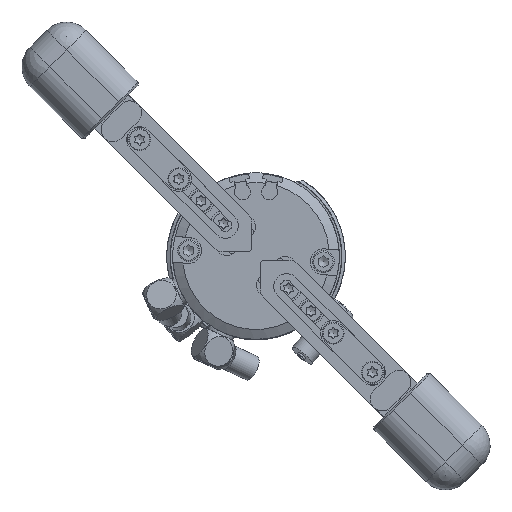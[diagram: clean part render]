
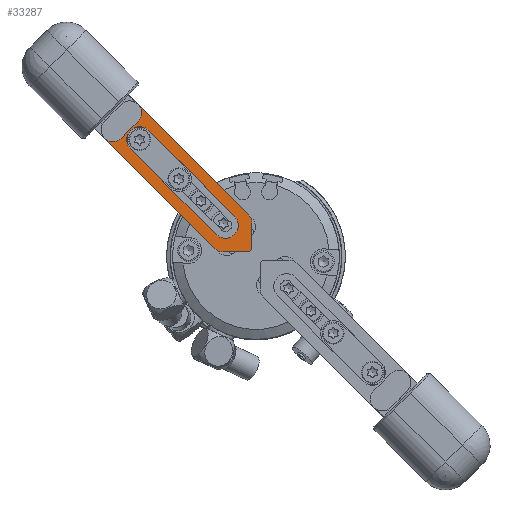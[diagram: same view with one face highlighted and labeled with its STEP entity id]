
A CAD part, top view. The second image highlights one B-rep face of the part: STEP entity #33287.
In plain terms, the highlighted planar face has unit normal (0, 0, 1).
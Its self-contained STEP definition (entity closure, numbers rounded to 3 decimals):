
#3358=LINE('',#59719,#6246);
#3365=LINE('',#59739,#6253);
#3368=LINE('',#59747,#6256);
#3369=LINE('',#59751,#6257);
#3370=LINE('',#59755,#6258);
#3371=LINE('',#59759,#6259);
#3372=LINE('',#59763,#6260);
#3373=LINE('',#59767,#6261);
#6246=VECTOR('',#41205,6.453);
#6253=VECTOR('',#41226,0.834);
#6256=VECTOR('',#41233,39.257);
#6257=VECTOR('',#41236,6.);
#6258=VECTOR('',#41239,39.257);
#6259=VECTOR('',#41242,6.453);
#6260=VECTOR('',#41245,30.593);
#6261=VECTOR('',#41248,30.593);
#7328=PLANE('',#35047);
#9513=FACE_BOUND('',#13734,.T.);
#10002=CIRCLE('',#35045,0.2);
#10003=CIRCLE('',#35048,3.);
#10004=CIRCLE('',#35049,3.);
#10005=CIRCLE('',#35050,3.);
#10006=CIRCLE('',#35051,3.);
#10007=CIRCLE('',#35052,0.2);
#10008=CIRCLE('',#35053,3.25);
#10009=CIRCLE('',#35054,3.25);
#11691=FACE_OUTER_BOUND('',#13733,.T.);
#13733=EDGE_LOOP('',(#30827,#30828,#30829,#30830,#30831,#30832,#30833,#30834,
#30835,#30836,#30837,#30838));
#13734=EDGE_LOOP('',(#30839,#30840,#30841,#30842));
#17761=VERTEX_POINT('',#59716);
#17762=VERTEX_POINT('',#59718);
#17767=VERTEX_POINT('',#59734);
#17768=VERTEX_POINT('',#59738);
#17770=VERTEX_POINT('',#59744);
#17771=VERTEX_POINT('',#59746);
#17772=VERTEX_POINT('',#59748);
#17773=VERTEX_POINT('',#59750);
#17774=VERTEX_POINT('',#59752);
#17775=VERTEX_POINT('',#59754);
#17776=VERTEX_POINT('',#59756);
#17777=VERTEX_POINT('',#59758);
#17778=VERTEX_POINT('',#59761);
#17779=VERTEX_POINT('',#59762);
#17780=VERTEX_POINT('',#59764);
#17781=VERTEX_POINT('',#59766);
#22146=EDGE_CURVE('',#17762,#17761,#3358,.T.);
#22154=EDGE_CURVE('',#17762,#17767,#10002,.T.);
#22156=EDGE_CURVE('',#17768,#17767,#3365,.T.);
#22159=EDGE_CURVE('',#17770,#17761,#10003,.T.);
#22160=EDGE_CURVE('',#17770,#17771,#3368,.T.);
#22161=EDGE_CURVE('',#17771,#17772,#10004,.T.);
#22162=EDGE_CURVE('',#17772,#17773,#3369,.T.);
#22163=EDGE_CURVE('',#17773,#17774,#10005,.T.);
#22164=EDGE_CURVE('',#17774,#17775,#3370,.T.);
#22165=EDGE_CURVE('',#17776,#17775,#10006,.T.);
#22166=EDGE_CURVE('',#17776,#17777,#3371,.T.);
#22167=EDGE_CURVE('',#17768,#17777,#10007,.T.);
#22168=EDGE_CURVE('',#17778,#17779,#3372,.T.);
#22169=EDGE_CURVE('',#17779,#17780,#10008,.T.);
#22170=EDGE_CURVE('',#17780,#17781,#3373,.T.);
#22171=EDGE_CURVE('',#17781,#17778,#10009,.T.);
#30827=ORIENTED_EDGE('',*,*,#22154,.F.);
#30828=ORIENTED_EDGE('',*,*,#22146,.T.);
#30829=ORIENTED_EDGE('',*,*,#22159,.F.);
#30830=ORIENTED_EDGE('',*,*,#22160,.T.);
#30831=ORIENTED_EDGE('',*,*,#22161,.T.);
#30832=ORIENTED_EDGE('',*,*,#22162,.T.);
#30833=ORIENTED_EDGE('',*,*,#22163,.T.);
#30834=ORIENTED_EDGE('',*,*,#22164,.T.);
#30835=ORIENTED_EDGE('',*,*,#22165,.F.);
#30836=ORIENTED_EDGE('',*,*,#22166,.T.);
#30837=ORIENTED_EDGE('',*,*,#22167,.F.);
#30838=ORIENTED_EDGE('',*,*,#22156,.T.);
#30839=ORIENTED_EDGE('',*,*,#22168,.T.);
#30840=ORIENTED_EDGE('',*,*,#22169,.T.);
#30841=ORIENTED_EDGE('',*,*,#22170,.T.);
#30842=ORIENTED_EDGE('',*,*,#22171,.T.);
#33287=ADVANCED_FACE('',(#11691,#9513),#7328,.F.);
#35045=AXIS2_PLACEMENT_3D('',#59735,#41221,#41222);
#35047=AXIS2_PLACEMENT_3D('',#59743,#41229,#41230);
#35048=AXIS2_PLACEMENT_3D('',#59745,#41231,#41232);
#35049=AXIS2_PLACEMENT_3D('',#59749,#41234,#41235);
#35050=AXIS2_PLACEMENT_3D('',#59753,#41237,#41238);
#35051=AXIS2_PLACEMENT_3D('',#59757,#41240,#41241);
#35052=AXIS2_PLACEMENT_3D('',#59760,#41243,#41244);
#35053=AXIS2_PLACEMENT_3D('',#59765,#41246,#41247);
#35054=AXIS2_PLACEMENT_3D('',#59768,#41249,#41250);
#41205=DIRECTION('',(-0.707,-0.707,0.));
#41221=DIRECTION('center_axis',(0.,0.,
-1.));
#41222=DIRECTION('ref_axis',(-0.383,0.924,0.));
#41226=DIRECTION('',(-1.,0.,0.));
#41229=DIRECTION('center_axis',(0.,0.,
-1.));
#41230=DIRECTION('ref_axis',(-0.707,-0.707,0.));
#41231=DIRECTION('center_axis',(0.,0.,
-1.));
#41232=DIRECTION('ref_axis',(-0.924,0.383,0.));
#41233=DIRECTION('',(0.,-1.,0.));
#41234=DIRECTION('center_axis',(0.,0.,
-1.));
#41235=DIRECTION('ref_axis',(0.,-1.,0.));
#41236=DIRECTION('',(1.,0.,0.));
#41237=DIRECTION('center_axis',(0.,0.,
-1.));
#41238=DIRECTION('ref_axis',(0.,1.,0.));
#41239=DIRECTION('',(0.,1.,0.));
#41240=DIRECTION('center_axis',(0.,0.,
-1.));
#41241=DIRECTION('ref_axis',(0.924,0.383,0.));
#41242=DIRECTION('',(-0.707,0.707,0.));
#41243=DIRECTION('center_axis',(0.,0.,
-1.));
#41244=DIRECTION('ref_axis',(0.383,0.924,0.));
#41245=DIRECTION('',(0.,1.,0.));
#41246=DIRECTION('center_axis',(0.,0.,
-1.));
#41247=DIRECTION('ref_axis',(-1.,0.,0.));
#41248=DIRECTION('',(0.,-1.,0.));
#41249=DIRECTION('center_axis',(0.,0.,
-1.));
#41250=DIRECTION('ref_axis',(1.,0.,0.));
#59716=CARTESIAN_POINT('',(-5.121,4.99,11.1));
#59718=CARTESIAN_POINT('',(-0.559,9.553,11.1));
#59719=CARTESIAN_POINT('',(-6.199,3.912,11.1));
#59734=CARTESIAN_POINT('',(-0.417,9.611,11.1));
#59735=CARTESIAN_POINT('Origin',(-0.417,9.411,11.1));
#59738=CARTESIAN_POINT('',(0.417,9.611,11.1));
#59739=CARTESIAN_POINT('',(0.,9.611,11.1));
#59743=CARTESIAN_POINT('Origin',(0.,-13.686,
11.1));
#59744=CARTESIAN_POINT('',(-6.,2.869,11.1));
#59745=CARTESIAN_POINT('Origin',(-3.,2.869,11.1));
#59746=CARTESIAN_POINT('',(-6.,-36.389,11.1));
#59747=CARTESIAN_POINT('',(-6.,-38.121,11.1));
#59748=CARTESIAN_POINT('',(-3.,-33.389,11.1));
#59749=CARTESIAN_POINT('Origin',(-3.,-36.389,11.1));
#59750=CARTESIAN_POINT('',(3.,-33.389,11.1));
#59751=CARTESIAN_POINT('',(1.5,-33.389,11.1));
#59752=CARTESIAN_POINT('',(6.,-36.389,11.1));
#59753=CARTESIAN_POINT('Origin',(3.,-36.389,11.1));
#59754=CARTESIAN_POINT('',(6.,2.869,11.1));
#59755=CARTESIAN_POINT('',(6.,29.704,11.1));
#59756=CARTESIAN_POINT('',(5.121,4.99,11.1));
#59757=CARTESIAN_POINT('Origin',(3.,2.869,11.1));
#59758=CARTESIAN_POINT('',(0.559,9.553,11.1));
#59759=CARTESIAN_POINT('',(8.949,1.162,11.1));
#59760=CARTESIAN_POINT('Origin',(0.417,9.411,11.1));
#59761=CARTESIAN_POINT('',(-3.25,-29.889,11.1));
#59762=CARTESIAN_POINT('',(-3.25,0.704,11.1));
#59763=CARTESIAN_POINT('',(-3.25,-21.787,11.1));
#59764=CARTESIAN_POINT('',(3.25,0.704,11.1));
#59765=CARTESIAN_POINT('Origin',(0.,0.704,
11.1));
#59766=CARTESIAN_POINT('',(3.25,-29.889,11.1));
#59767=CARTESIAN_POINT('',(3.25,-6.491,11.1));
#59768=CARTESIAN_POINT('Origin',(0.,-29.889,
11.1));
